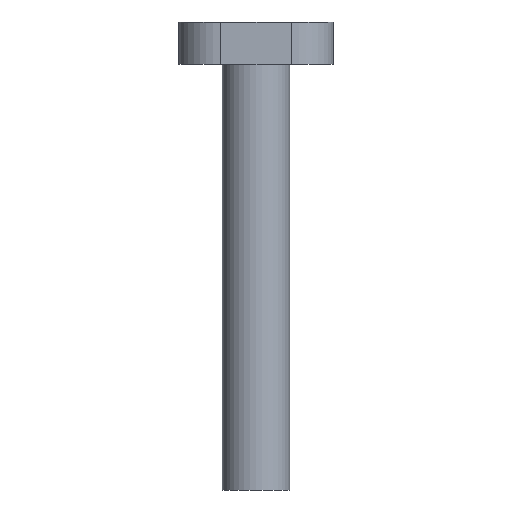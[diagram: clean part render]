
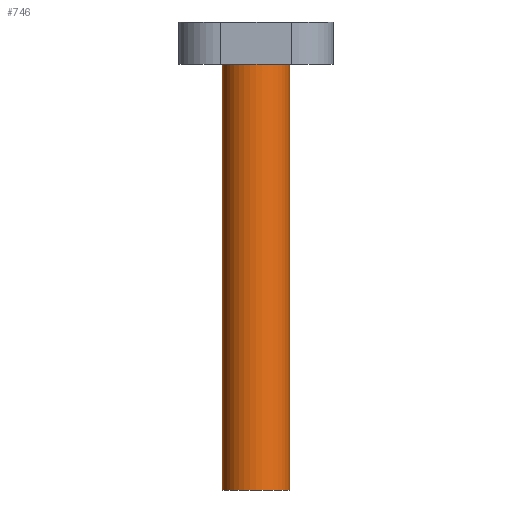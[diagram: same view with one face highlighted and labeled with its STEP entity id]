
A CAD part, front view. The second image highlights one B-rep face of the part: STEP entity #746.
In plain terms, the highlighted cylindrical face has radius 2.4 mm (diameter 4.8 mm), a full revolution.
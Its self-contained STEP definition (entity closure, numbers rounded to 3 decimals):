
#144 = PLANE('',#145);
#145 = AXIS2_PLACEMENT_3D('',#146,#147,#148);
#146 = CARTESIAN_POINT('',(0.,0.,30.2)
  );
#147 = DIRECTION('',(0.,0.,1.));
#148 = DIRECTION('',(1.,0.,-0.));
#474 = EDGE_CURVE('',#475,#475,#477,.T.);
#475 = VERTEX_POINT('',#476);
#476 = CARTESIAN_POINT('',(2.4,0.,30.2));
#477 = SURFACE_CURVE('',#478,(#483,#490),.PCURVE_S1.);
#478 = CIRCLE('',#479,2.4);
#479 = AXIS2_PLACEMENT_3D('',#480,#481,#482);
#480 = CARTESIAN_POINT('',(0.,0.,30.2));
#481 = DIRECTION('',(0.,0.,1.));
#482 = DIRECTION('',(1.,0.,-0.));
#483 = PCURVE('',#144,#484);
#484 = DEFINITIONAL_REPRESENTATION('',(#485),#489);
#485 = CIRCLE('',#486,2.4);
#486 = AXIS2_PLACEMENT_2D('',#487,#488);
#487 = CARTESIAN_POINT('',(0.,0.));
#488 = DIRECTION('',(1.,0.));
#489 = ( GEOMETRIC_REPRESENTATION_CONTEXT(2) 
PARAMETRIC_REPRESENTATION_CONTEXT() REPRESENTATION_CONTEXT('2D SPACE',''
  ) );
#490 = PCURVE('',#491,#496);
#491 = CYLINDRICAL_SURFACE('',#492,2.4);
#492 = AXIS2_PLACEMENT_3D('',#493,#494,#495);
#493 = CARTESIAN_POINT('',(0.,0.,0.));
#494 = DIRECTION('',(0.,0.,1.));
#495 = DIRECTION('',(1.,0.,-0.));
#496 = DEFINITIONAL_REPRESENTATION('',(#497),#501);
#497 = LINE('',#498,#499);
#498 = CARTESIAN_POINT('',(0.,30.2));
#499 = VECTOR('',#500,1.);
#500 = DIRECTION('',(1.,0.));
#501 = ( GEOMETRIC_REPRESENTATION_CONTEXT(2) 
PARAMETRIC_REPRESENTATION_CONTEXT() REPRESENTATION_CONTEXT('2D SPACE',''
  ) );
#746 = ADVANCED_FACE('',(#747),#491,.T.);
#747 = FACE_BOUND('',#748,.T.);
#748 = EDGE_LOOP('',(#749,#750,#773,#800));
#749 = ORIENTED_EDGE('',*,*,#474,.F.);
#750 = ORIENTED_EDGE('',*,*,#751,.F.);
#751 = EDGE_CURVE('',#752,#475,#754,.T.);
#752 = VERTEX_POINT('',#753);
#753 = CARTESIAN_POINT('',(2.4,0.,0.));
#754 = SEAM_CURVE('',#755,(#759,#766),.PCURVE_S1.);
#755 = LINE('',#756,#757);
#756 = CARTESIAN_POINT('',(2.4,0.,0.));
#757 = VECTOR('',#758,1.);
#758 = DIRECTION('',(0.,0.,1.));
#759 = PCURVE('',#491,#760);
#760 = DEFINITIONAL_REPRESENTATION('',(#761),#765);
#761 = LINE('',#762,#763);
#762 = CARTESIAN_POINT('',(6.283,-0.));
#763 = VECTOR('',#764,1.);
#764 = DIRECTION('',(0.,1.));
#765 = ( GEOMETRIC_REPRESENTATION_CONTEXT(2) 
PARAMETRIC_REPRESENTATION_CONTEXT() REPRESENTATION_CONTEXT('2D SPACE',''
  ) );
#766 = PCURVE('',#491,#767);
#767 = DEFINITIONAL_REPRESENTATION('',(#768),#772);
#768 = LINE('',#769,#770);
#769 = CARTESIAN_POINT('',(0.,-0.));
#770 = VECTOR('',#771,1.);
#771 = DIRECTION('',(0.,1.));
#772 = ( GEOMETRIC_REPRESENTATION_CONTEXT(2) 
PARAMETRIC_REPRESENTATION_CONTEXT() REPRESENTATION_CONTEXT('2D SPACE',''
  ) );
#773 = ORIENTED_EDGE('',*,*,#774,.T.);
#774 = EDGE_CURVE('',#752,#752,#775,.T.);
#775 = SURFACE_CURVE('',#776,(#781,#788),.PCURVE_S1.);
#776 = CIRCLE('',#777,2.4);
#777 = AXIS2_PLACEMENT_3D('',#778,#779,#780);
#778 = CARTESIAN_POINT('',(0.,0.,0.));
#779 = DIRECTION('',(0.,0.,1.));
#780 = DIRECTION('',(1.,0.,-0.));
#781 = PCURVE('',#491,#782);
#782 = DEFINITIONAL_REPRESENTATION('',(#783),#787);
#783 = LINE('',#784,#785);
#784 = CARTESIAN_POINT('',(0.,0.));
#785 = VECTOR('',#786,1.);
#786 = DIRECTION('',(1.,0.));
#787 = ( GEOMETRIC_REPRESENTATION_CONTEXT(2) 
PARAMETRIC_REPRESENTATION_CONTEXT() REPRESENTATION_CONTEXT('2D SPACE',''
  ) );
#788 = PCURVE('',#789,#794);
#789 = PLANE('',#790);
#790 = AXIS2_PLACEMENT_3D('',#791,#792,#793);
#791 = CARTESIAN_POINT('',(0.,0.,0.));
#792 = DIRECTION('',(0.,0.,1.));
#793 = DIRECTION('',(1.,0.,-0.));
#794 = DEFINITIONAL_REPRESENTATION('',(#795),#799);
#795 = CIRCLE('',#796,2.4);
#796 = AXIS2_PLACEMENT_2D('',#797,#798);
#797 = CARTESIAN_POINT('',(0.,0.));
#798 = DIRECTION('',(1.,0.));
#799 = ( GEOMETRIC_REPRESENTATION_CONTEXT(2) 
PARAMETRIC_REPRESENTATION_CONTEXT() REPRESENTATION_CONTEXT('2D SPACE',''
  ) );
#800 = ORIENTED_EDGE('',*,*,#751,.T.);
